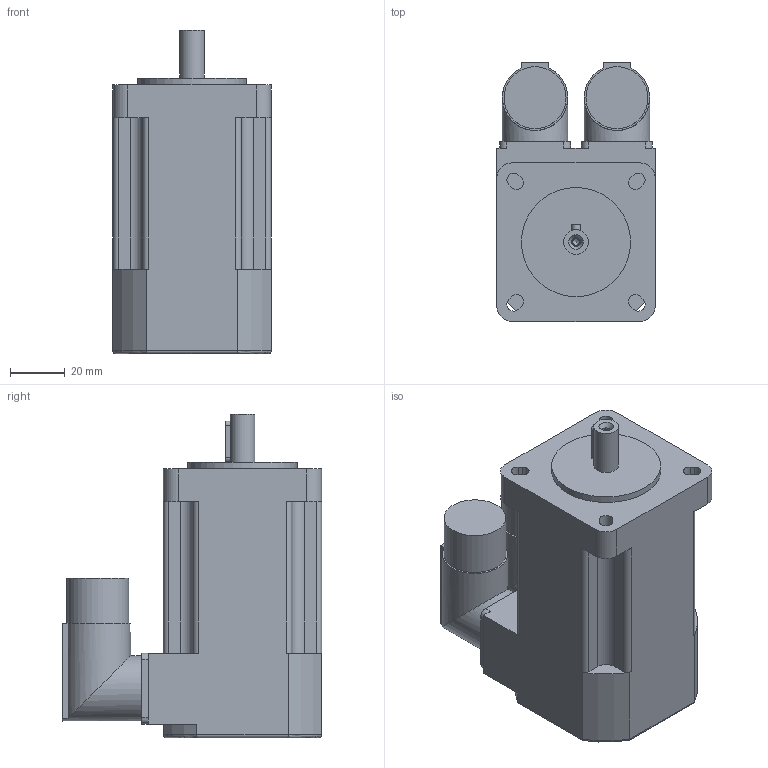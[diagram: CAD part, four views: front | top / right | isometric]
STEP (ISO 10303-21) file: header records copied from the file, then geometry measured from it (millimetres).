
FILE_DESCRIPTION(/* description */ (''),/* implementation_level */ '2;1');
FILE_NAME(/* name */ 'C:\Users\Pastrello_Ylenia\Desktop\Modelli 3D Serad\B28Q\Resolver\Resolver NoBrake\B28D5Qxx6A052000.stp',/* time_stamp */ '2015-06-10T17:08:58+02:00',/* author */ ('Pastrello_Ylenia'),/* organization */ (''),/* preprocessor_version */ 'ST-DEVELOPER v15.6',/* originating_system */ 'Autodesk Inventor 2015',/* authorisation */ '');
FILE_SCHEMA (('AUTOMOTIVE_DESIGN { 1 0 10303 214 3 1 1 }'));
Length unit declared in the file: millimetre
Products named in the file (1): B28D5Qxx6A052000
Bounding box: 58 x 95 x 118.5 mm (x, y, z)
Volume: 364367.8 mm3; surface area: 40932.3 mm2
Topology: 1 solids, 1 shells, 140 faces, 374 edges, 243 vertices
Faces by surface type: plane 72, cylinder 62, torus 4, cone 2
Full cylindrical faces by diameter (mm): 2.5 x1, 3.2 x1, 9 x1, 22.7 x2, 24 x2, 40 x1
Entity records: 4441 total; most frequent: CARTESIAN_POINT 879, DIRECTION 757, ORIENTED_EDGE 722, EDGE_CURVE 360, AXIS2_PLACEMENT_3D 268, VERTEX_POINT 240, LINE 221, VECTOR 221
